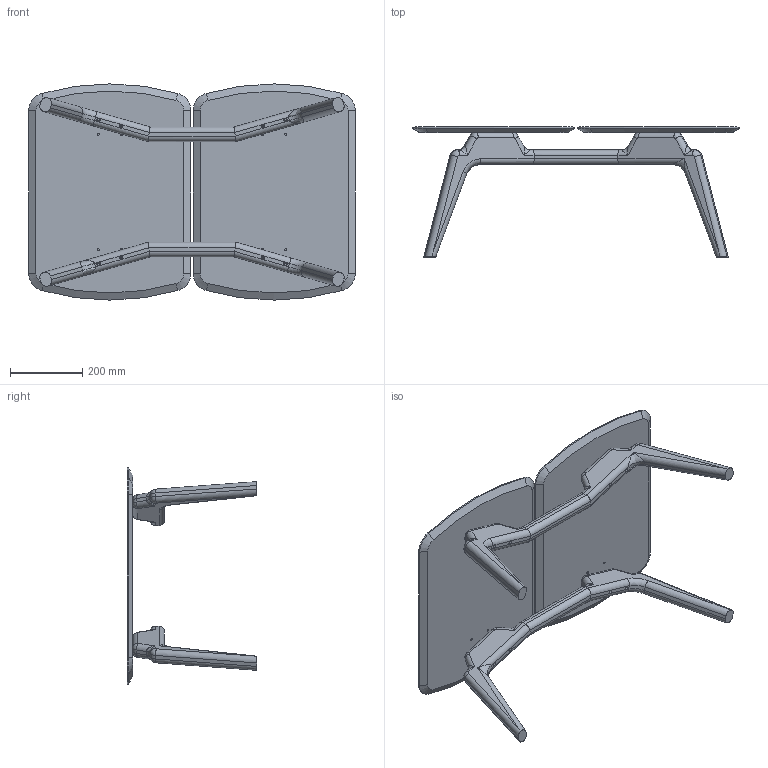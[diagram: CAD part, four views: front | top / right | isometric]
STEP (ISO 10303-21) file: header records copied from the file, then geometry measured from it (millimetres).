
FILE_DESCRIPTION (( 'STEP AP214' ), '1' );
FILE_NAME ('MESA_MIXTA_S_DUO.STEP', '2019-08-02T09:35:46', ( '' ), ( '' ), 'SwSTEP 2.0', 'SolidWorks 2016', '' );
FILE_SCHEMA (( 'AUTOMOTIVE_DESIGN' ));
Length unit declared in the file: millimetre
Products named in the file (5): MESA_MIXTA_S_DUO; PATAS_MADERA_ALTURA DOBLE_DIAGONAL_2_MESA_MODULAR_2_SOBRES; TRAVESAÑO_1_SOBRE; PATAS_MADERA_ALTURA DOBLE_DIAGONAL_1; SOBRE_CAHPADO_RECTO_8_AGUJEROS_MESA_MODULAR_2_SOBRES
Assembly tree (8 placements, depth 2):
  MESA_MIXTA_S_DUO
    TRAVESAÑO_1_SOBRE  x2
    PATAS_MADERA_ALTURA DOBLE_DIAGONAL_1  x2
    PATAS_MADERA_ALTURA DOBLE_DIAGONAL_2_MESA_MODULAR_2_SOBRES  x2
    SOBRE_CAHPADO_RECTO_8_AGUJEROS_MESA_MODULAR_2_SOBRES  x2
Bounding box: 906 x 360 x 600 mm (x, y, z)
Volume: 12098875.4 mm3; surface area: 1499649.5 mm2
Topology: 8 solids, 8 shells, 336 faces, 800 edges, 476 vertices
Faces by surface type: cylinder 172, plane 104, torus 28, bspline 20, cone 12
Entity records: 5665 total; most frequent: CARTESIAN_POINT 1593, DIRECTION 824, ORIENTED_EDGE 780, EDGE_CURVE 390, AXIS2_PLACEMENT_3D 325, VERTEX_POINT 238, EDGE_LOOP 184, LINE 174
